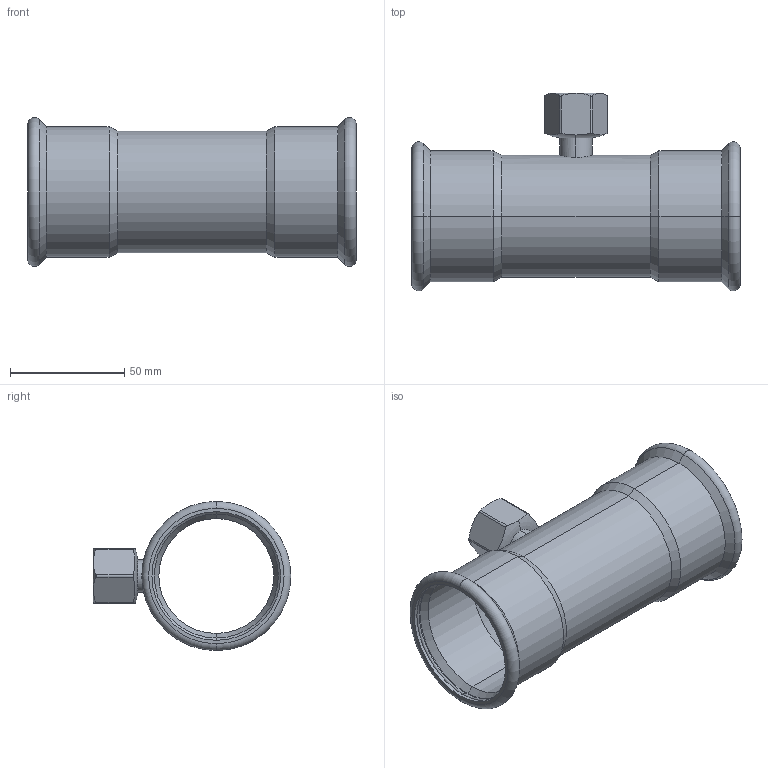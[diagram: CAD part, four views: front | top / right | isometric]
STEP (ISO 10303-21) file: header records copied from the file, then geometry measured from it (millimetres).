
FILE_DESCRIPTION (( 'STEP AP214' ), '1' );
FILE_NAME ('T54150F.STEP', '2025-08-17T13:59:53', ( '' ), ( '' ), 'SwSTEP 2.0', 'SolidWorks 2020', '' );
FILE_SCHEMA (( 'AUTOMOTIVE_DESIGN' ));
Length unit declared in the file: millimetre
Products named in the file (1): T54150F
Bounding box: 144 x 86.7 x 65.39 mm (x, y, z)
Volume: 44555 mm3; surface area: 59739.5 mm2
Topology: 3 solids, 3 shells, 104 faces, 249 edges, 150 vertices
Faces by surface type: cylinder 51, torus 20, cone 18, plane 12, bspline 3
Entity records: 6366 total; most frequent: CARTESIAN_POINT 2915, ORIENTED_EDGE 498, DIRECTION 454, EDGE_CURVE 249, AXIS2_PLACEMENT_3D 188, VERTEX_POINT 150, EDGE_LOOP 111, UNCERTAINTY_MEASURE_WITH_UNIT 109
